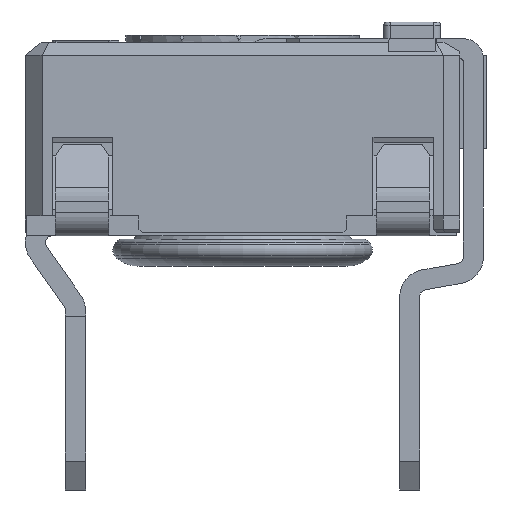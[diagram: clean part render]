
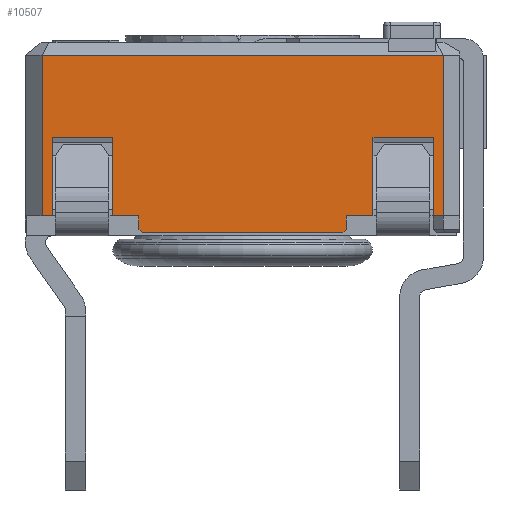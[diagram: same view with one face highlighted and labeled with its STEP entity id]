
A CAD part, left-side view. The second image highlights one B-rep face of the part: STEP entity #10507.
In plain terms, the highlighted planar face has unit normal (-1, 0, 0).
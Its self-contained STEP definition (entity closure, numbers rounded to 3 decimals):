
#922=FACE_OUTER_BOUND('',#1466,.T.);
#1466=EDGE_LOOP('',(#8990,#8991,#8992,#8993,#8994,#8995,#8996,#8997,#8998,
#8999,#9000,#9001,#9002,#9003,#9004,#9005,#9006,#9007));
#2121=LINE('',#15901,#3316);
#2240=LINE('',#16164,#3435);
#2246=LINE('',#16177,#3441);
#2252=LINE('',#16188,#3447);
#2258=LINE('',#16199,#3453);
#2263=LINE('',#16209,#3458);
#2266=LINE('',#16215,#3461);
#2298=LINE('',#16277,#3493);
#2322=LINE('',#16332,#3517);
#2334=LINE('',#16352,#3529);
#2336=LINE('',#16357,#3531);
#2345=LINE('',#16376,#3540);
#2347=LINE('',#16379,#3542);
#2367=LINE('',#16420,#3562);
#2547=LINE('',#16875,#3742);
#2560=LINE('',#16899,#3755);
#2561=LINE('',#16901,#3756);
#2562=LINE('',#16903,#3757);
#3316=VECTOR('',#12835,10.);
#3435=VECTOR('',#13020,10.);
#3441=VECTOR('',#13028,10.);
#3447=VECTOR('',#13034,10.);
#3453=VECTOR('',#13042,10.);
#3458=VECTOR('',#13049,10.);
#3461=VECTOR('',#13054,10.);
#3493=VECTOR('',#13096,10.);
#3517=VECTOR('',#13148,10.);
#3529=VECTOR('',#13168,10.);
#3531=VECTOR('',#13172,10.);
#3540=VECTOR('',#13193,10.);
#3542=VECTOR('',#13197,10.);
#3562=VECTOR('',#13231,10.);
#3742=VECTOR('',#13661,10.);
#3755=VECTOR('',#13682,10.);
#3756=VECTOR('',#13685,10.);
#3757=VECTOR('',#13688,10.);
#4463=VERTEX_POINT('',#15898);
#4464=VERTEX_POINT('',#15900);
#4574=VERTEX_POINT('',#16161);
#4575=VERTEX_POINT('',#16163);
#4579=VERTEX_POINT('',#16173);
#4581=VERTEX_POINT('',#16176);
#4586=VERTEX_POINT('',#16186);
#4589=VERTEX_POINT('',#16196);
#4593=VERTEX_POINT('',#16206);
#4596=VERTEX_POINT('',#16213);
#4619=VERTEX_POINT('',#16264);
#4621=VERTEX_POINT('',#16276);
#4638=VERTEX_POINT('',#16328);
#4643=VERTEX_POINT('',#16354);
#4648=VERTEX_POINT('',#16375);
#4784=VERTEX_POINT('',#16872);
#4785=VERTEX_POINT('',#16874);
#4792=VERTEX_POINT('',#16897);
#5676=EDGE_CURVE('',#4464,#4463,#2121,.T.);
#5811=EDGE_CURVE('',#4575,#4574,#2240,.T.);
#5817=EDGE_CURVE('',#4581,#4579,#2246,.T.);
#5823=EDGE_CURVE('',#4574,#4586,#2252,.T.);
#5829=EDGE_CURVE('',#4579,#4589,#2258,.T.);
#5834=EDGE_CURVE('',#4589,#4593,#2263,.T.);
#5837=EDGE_CURVE('',#4593,#4596,#2266,.T.);
#5869=EDGE_CURVE('',#4621,#4575,#2298,.T.);
#5899=EDGE_CURVE('',#4463,#4621,#2322,.T.);
#5911=EDGE_CURVE('',#4464,#4638,#2334,.T.);
#5913=EDGE_CURVE('',#4586,#4643,#2336,.T.);
#5922=EDGE_CURVE('',#4648,#4619,#2345,.T.);
#5924=EDGE_CURVE('',#4638,#4619,#2347,.T.);
#5945=EDGE_CURVE('',#4596,#4648,#2367,.T.);
#6168=EDGE_CURVE('',#4784,#4785,#2547,.T.);
#6181=EDGE_CURVE('',#4792,#4643,#2560,.T.);
#6182=EDGE_CURVE('',#4792,#4785,#2561,.T.);
#6183=EDGE_CURVE('',#4784,#4581,#2562,.T.);
#8990=ORIENTED_EDGE('',*,*,#6181,.F.);
#8991=ORIENTED_EDGE('',*,*,#6182,.T.);
#8992=ORIENTED_EDGE('',*,*,#6168,.F.);
#8993=ORIENTED_EDGE('',*,*,#6183,.T.);
#8994=ORIENTED_EDGE('',*,*,#5817,.T.);
#8995=ORIENTED_EDGE('',*,*,#5829,.T.);
#8996=ORIENTED_EDGE('',*,*,#5834,.T.);
#8997=ORIENTED_EDGE('',*,*,#5837,.T.);
#8998=ORIENTED_EDGE('',*,*,#5945,.T.);
#8999=ORIENTED_EDGE('',*,*,#5922,.T.);
#9000=ORIENTED_EDGE('',*,*,#5924,.F.);
#9001=ORIENTED_EDGE('',*,*,#5911,.F.);
#9002=ORIENTED_EDGE('',*,*,#5676,.T.);
#9003=ORIENTED_EDGE('',*,*,#5899,.T.);
#9004=ORIENTED_EDGE('',*,*,#5869,.T.);
#9005=ORIENTED_EDGE('',*,*,#5811,.T.);
#9006=ORIENTED_EDGE('',*,*,#5823,.T.);
#9007=ORIENTED_EDGE('',*,*,#5913,.T.);
#9790=PLANE('',#11295);
#10507=ADVANCED_FACE('',(#922),#9790,.T.);
#11295=AXIS2_PLACEMENT_3D('',#17084,#13890,#13891);
#12835=DIRECTION('',(0.,-1.,0.));
#13020=DIRECTION('',(0.,0.,-1.));
#13028=DIRECTION('',(0.,-1.,0.));
#13034=DIRECTION('',(0.,-1.,0.));
#13042=DIRECTION('',(0.,0.,1.));
#13049=DIRECTION('',(0.,-1.,0.));
#13054=DIRECTION('',(0.,0.,-1.));
#13096=DIRECTION('',(0.,-1.,0.));
#13148=DIRECTION('',(0.,0.,1.));
#13168=DIRECTION('',(0.,0.,1.));
#13172=DIRECTION('',(0.,0.,-1.));
#13193=DIRECTION('',(0.,0.,1.));
#13197=DIRECTION('',(0.,-1.,0.));
#13231=DIRECTION('',(0.,-1.,0.));
#13661=DIRECTION('',(0.,0.707,-0.707));
#13682=DIRECTION('',(0.,0.707,0.707));
#13685=DIRECTION('',(0.,-1.,0.));
#13688=DIRECTION('',(0.,0.,1.));
#13890=DIRECTION('center_axis',(-1.,0.,0.));
#13891=DIRECTION('ref_axis',(0.,0.,1.));
#15898=CARTESIAN_POINT('',(-14.26,-8.882,0.25));
#15900=CARTESIAN_POINT('',(-14.26,-8.732,0.25));
#15901=CARTESIAN_POINT('',(-14.26,-13.244,0.25));
#16161=CARTESIAN_POINT('',(-14.26,-9.782,0.25));
#16163=CARTESIAN_POINT('',(-14.26,-9.782,1.425));
#16164=CARTESIAN_POINT('',(-14.26,-9.782,0.387));
#16173=CARTESIAN_POINT('',(-14.26,-13.682,0.25));
#16176=CARTESIAN_POINT('',(-14.26,-13.282,0.25));
#16177=CARTESIAN_POINT('',(-14.26,-13.244,0.25));
#16186=CARTESIAN_POINT('',(-14.26,-10.182,0.25));
#16188=CARTESIAN_POINT('',(-14.26,-13.244,0.25));
#16196=CARTESIAN_POINT('',(-14.26,-13.682,1.425));
#16199=CARTESIAN_POINT('',(-14.26,-13.682,0.387));
#16206=CARTESIAN_POINT('',(-14.26,-14.582,1.425));
#16209=CARTESIAN_POINT('',(-14.26,-14.657,1.425));
#16213=CARTESIAN_POINT('',(-14.26,-14.582,0.25));
#16215=CARTESIAN_POINT('',(-14.26,-14.582,0.387));
#16264=CARTESIAN_POINT('',(-14.26,-14.732,2.655));
#16276=CARTESIAN_POINT('',(-14.26,-8.882,1.425));
#16277=CARTESIAN_POINT('',(-14.26,-11.807,1.425));
#16328=CARTESIAN_POINT('',(-14.26,-8.732,2.655));
#16332=CARTESIAN_POINT('',(-14.26,-8.882,0.387));
#16352=CARTESIAN_POINT('',(-14.26,-8.732,0.));
#16354=CARTESIAN_POINT('',(-14.26,-10.182,0.05));
#16357=CARTESIAN_POINT('',(-14.26,-10.182,0.));
#16375=CARTESIAN_POINT('',(-14.26,-14.732,0.25));
#16376=CARTESIAN_POINT('',(-14.26,-14.732,0.));
#16379=CARTESIAN_POINT('',(-14.26,-13.232,2.655));
#16420=CARTESIAN_POINT('',(-14.26,-13.244,0.25));
#16872=CARTESIAN_POINT('',(-14.26,-13.282,0.05));
#16874=CARTESIAN_POINT('',(-14.26,-13.232,0.));
#16875=CARTESIAN_POINT('',(-14.26,-13.619,0.388));
#16897=CARTESIAN_POINT('',(-14.26,-10.232,0.));
#16899=CARTESIAN_POINT('',(-14.26,-11.344,-1.113));
#16901=CARTESIAN_POINT('',(-14.26,-8.732,0.));
#16903=CARTESIAN_POINT('',(-14.26,-13.282,0.));
#17084=CARTESIAN_POINT('Origin',(-14.26,-14.732,0.));
